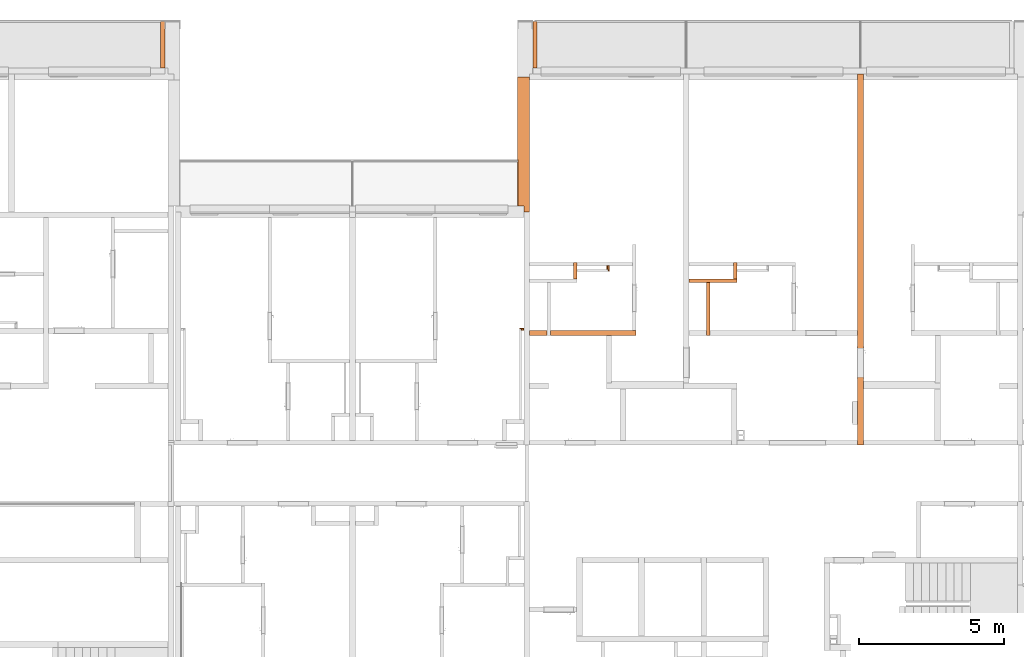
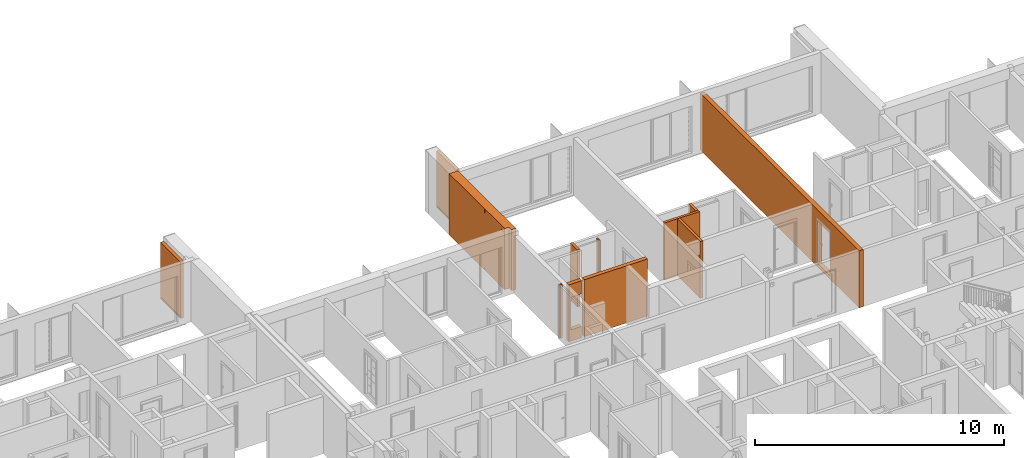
# One storey, part 59 of 64: 11 proxies, 2 openings.
"""IFC2X3 building model written with IfcOpenShell, lengths in millimetres."""

from ifc_helpers import new_model, entity, si_unit, converted_unit, derived_unit, money_unit, direction, frame, origin_with_axes, origin_2d_with_axis, place, context, subcontext, project, spatial, rectangle, extrude, faceted_brep, material, material_list, type_object, element, save


model = new_model("IFC2X3")

# Units and contexts
model_context = context("Model", 3, precision=0.01, world=origin_with_axes(), true_north=direction((0.34421633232, 0.938890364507)))
body_context = subcontext(model_context, "Body", "Model", "MODEL_VIEW")
ifc_project = project(units=[si_unit("LENGTHUNIT", "METRE", prefix="MILLI"), si_unit("AREAUNIT", "SQUARE_METRE"), si_unit("VOLUMEUNIT", "CUBIC_METRE"), converted_unit("PLANEANGLEUNIT", "DEGREE", entity("IfcPlaneAngleMeasure", 0.0174532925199), si_unit("PLANEANGLEUNIT", "RADIAN"), dimensions=[0, 0, 0, 0, 0, 0, 0]), si_unit("SOLIDANGLEUNIT", "STERADIAN"), money_unit("USD"), converted_unit("TIMEUNIT", "Year", entity("IfcTimeMeasure", 31556926.0), si_unit("TIMEUNIT", "SECOND"), dimensions=[0, 0, 1, 0, 0, 0, 0]), si_unit("MASSUNIT", "GRAM", prefix="KILO"), si_unit("THERMODYNAMICTEMPERATUREUNIT", "DEGREE_CELSIUS"), si_unit("LUMINOUSINTENSITYUNIT", "LUMEN"), si_unit("ENERGYUNIT", "JOULE", prefix="MEGA"), derived_unit("THERMALCONDUCTANCEUNIT", [(si_unit("POWERUNIT", "WATT"), 1), (si_unit("LENGTHUNIT", "METRE"), -1), (si_unit("THERMODYNAMICTEMPERATUREUNIT", "KELVIN"), -1)]), derived_unit("SPECIFICHEATCAPACITYUNIT", [(si_unit("ENERGYUNIT", "JOULE"), 1), (si_unit("MASSUNIT", "GRAM", prefix="KILO"), -1), (si_unit("THERMODYNAMICTEMPERATUREUNIT", "KELVIN"), -1)]), derived_unit("MASSDENSITYUNIT", [(si_unit("MASSUNIT", "GRAM", prefix="KILO"), 1), (si_unit("VOLUMEUNIT", "CUBIC_METRE"), -1)])], contexts=[model_context])

# Site, building, storey
site_placement = place(None, origin_with_axes())
site = spatial("IfcSite", under=ifc_project, at=site_placement, Name="USTRONIE MORSKIE", CompositionType="ELEMENT")
building_placement = place(site_placement, origin_with_axes())
building = spatial("IfcBuilding", under=site, at=building_placement, Name="Budynek", CompositionType="ELEMENT")
storey_placement = place(building_placement, frame((0.0, 0.0, 7000.0), z_axis=(0.0, 0.0, 1.0), x_axis=(1.0, 0.0, 0.0)))
storey = spatial("IfcBuildingStorey", under=building, at=storey_placement, Name="PIĘTRO 2", CompositionType="ELEMENT", Elevation=7000.0)

# Proxies
ifc_material_1 = material(Name="Bloczki silikatowe")
building_element_proxy_type_1 = type_object("IfcBuildingElementProxyType", Name="Bloczki silikatowe 120", PredefinedType="NOTDEFINED")
proxy_1_placement = place(storey_placement, frame((384817.920919, 742431.199937, -160.0), z_axis=(0.0, 0.0, 1.0), x_axis=(1.0, 0.0, 0.0)))
element("IfcBuildingElementProxy", 1, at=proxy_1_placement, inside=storey, type_object=building_element_proxy_type_1, material=ifc_material_1, Name="SW-04", context=body_context, shape_type="Brep", body=[
    faceted_brep([(1740.0, 59.9999999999, 0.0), (1740.0, -59.9999999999, 0.0), (100.0, -59.9999999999, 0.0), (100.0, 59.9999999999, 0.0), (1740.0, 59.9999999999, 2800.0), (1740.0, -59.9999999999, 2800.0), (100.0, -59.9999999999, 2800.0), (100.0, 59.9999999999, 2800.0)], [[[0, 1, 2, 3]], [[1, 0, 4, 5]], [[1, 5, 6, 2]], [[7, 3, 2, 6]], [[4, 0, 3, 7]], [[5, 4, 7, 6]]]),
])
proxy_2_placement = place(storey_placement, frame((386497.920919, 743001.199021, -160.0), z_axis=(0.0, 0.0, 1.0), x_axis=(0.0, -1.0, 0.0)))
element("IfcBuildingElementProxy", 2, at=proxy_2_placement, inside=storey, type_object=building_element_proxy_type_1, material=ifc_material_1, Name="SW-04", context=body_context, shape_type="Brep", body=[
    faceted_brep([(509.999084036, 60.0, 0.0), (509.999084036, -60.0, 0.0), (-59.9999999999, -60.0, 0.0), (-59.9999999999, 60.0, 0.0), (509.999084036, 60.0, 2800.0), (509.999084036, -60.0, 2800.0), (-59.9999999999, -60.0, 2800.0), (-59.9999999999, 60.0, 2800.0)], [[[0, 1, 2, 3]], [[1, 0, 4, 5]], [[1, 5, 6, 2]], [[7, 3, 2, 6]], [[4, 0, 3, 7]], [[5, 4, 7, 6]]]),
])
proxy_3_placement = place(storey_placement, frame((385577.924326, 742431.199937, -160.0), z_axis=(0.0, 0.0, 1.0), x_axis=(0.0, -1.0, 0.0)))
element("IfcBuildingElementProxy", 3, at=proxy_3_placement, inside=storey, type_object=building_element_proxy_type_1, material=ifc_material_1, Name="SW-04", context=body_context, shape_type="Brep", body=[
    faceted_brep([(1890.00090117, 60.0, 0.0), (1890.00090117, -60.0, 0.0), (59.9999999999, -60.0, 0.0), (59.9999999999, 60.0, 0.0), (1890.00090117, 60.0, 2800.0), (1890.00090117, -60.0, 2800.0), (59.9999999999, -60.0, 2800.0), (59.9999999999, 60.0, 2800.0)], [[[0, 1, 2, 3]], [[1, 0, 4, 5]], [[1, 5, 6, 2]], [[7, 3, 2, 6]], [[4, 0, 3, 7]], [[5, 4, 7, 6]]]),
])
proxy_4_placement = place(storey_placement, frame((380997.920919, 743001.199021, -160.0), z_axis=(0.0, 0.0, 1.0), x_axis=(0.0, -1.0, 0.0)))
element("IfcBuildingElementProxy", 4, at=proxy_4_placement, inside=storey, type_object=building_element_proxy_type_1, material=ifc_material_1, Name="SW-04", context=body_context, shape_type="Brep", body=[
    faceted_brep([(509.999084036, 60.0, 0.0), (509.999084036, -60.0, 0.0), (-59.9999999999, -60.0, 0.0), (-59.9999999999, 60.0, 0.0), (509.999084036, 60.0, 2800.0), (509.999084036, -60.0, 2800.0), (-59.9999999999, -60.0, 2800.0), (-59.9999999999, 60.0, 2800.0)], [[[0, 1, 2, 3]], [[1, 0, 4, 5]], [[1, 5, 6, 2]], [[7, 3, 2, 6]], [[4, 0, 3, 7]], [[5, 4, 7, 6]]]),
])
ifc_material_2 = material(Name="Tynk zewnętrzny")
ifc_material_3 = material(Name="Wełna ELEW")
ifc_material_4 = material(Name="Beton konstrukcyjny B25")
ifc_material_list_1 = material_list([ifc_material_2, ifc_material_3, ifc_material_4])
building_element_proxy_type_2 = type_object("IfcBuildingElementProxyType", Name="20+20 410", PredefinedType="NOTDEFINED")
proxy_5_placement = place(storey_placement, frame((379317.920919, 744701.213046, -160.0), z_axis=(0.0, 0.0, 1.0), x_axis=(0.0, 1.0, 0.0)))
element("IfcBuildingElementProxy", 5, at=proxy_5_placement, inside=storey, type_object=building_element_proxy_type_2, material=ifc_material_list_1, Name="SZ-01", context=body_context, shape_type="Brep", body=[
    faceted_brep([(1899.98108936, 310.0, 3000.0), (1899.98108936, 300.0, 3000.0), (4749.98599028, 300.0, 3000.0), (4749.98599028, 310.0, 3000.0), (1899.98108936, 300.0, 2800.0), (1899.98108936, 310.0, 2800.0), (309.986276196, 300.0, 2800.0), (309.986276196, 300.0, 110.0), (1899.98108936, 300.0, 110.0), (1899.98108936, 300.0, 0.0), (4749.98599028, 300.0, 0.0), (4749.98599028, 310.0, 0.0), (1899.98108936, 310.0, 0.0), (1899.98108936, 310.0, 110.0), (309.986276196, 310.0, 110.0), (309.986276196, 310.0, 2800.0)], [[[0, 1, 2, 3]], [[4, 1, 0, 5]], [[4, 6, 7, 8, 9, 10, 2, 1]], [[10, 11, 3, 2]], [[5, 0, 3, 11, 12, 13, 14, 15]], [[6, 4, 5, 15]], [[6, 15, 14, 7]], [[8, 7, 14, 13]], [[8, 13, 12, 9]], [[9, 12, 11, 10]]]),
    faceted_brep([(299.986276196, 300.0, 3000.0), (299.986276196, 300.0, 0.0), (299.986276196, 100.0, 0.0), (299.986276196, 100.0, 3000.0), (4749.98599028, 300.0, 0.0), (4749.98599028, 300.0, 3000.0), (4749.98599028, 100.0, 0.0), (4749.98599028, 100.0, 3000.0)], [[[0, 1, 2, 3]], [[4, 1, 0, 5]], [[6, 2, 1, 4]], [[3, 2, 6, 7]], [[5, 0, 3, 7]], [[6, 4, 5, 7]]]),
    faceted_brep([(100.000114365, -100.0, 2800.0), (100.000114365, -100.0, 0.0), (4749.98599028, -100.0, 0.0), (4749.98599028, -100.0, 3000.0), (99.9862761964, -100.0, 3000.0), (99.9862761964, -100.0, 2800.0), (99.999885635, 100.0, 2800.0), (99.999885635, 100.0, 0.0), (4749.98599028, 100.0, 0.0), (4749.98599028, 100.0, 3000.0), (99.9862761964, 100.0, 3000.0), (99.9862761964, 100.0, 2800.0)], [[[0, 1, 2, 3, 4, 5]], [[1, 0, 6, 7]], [[1, 7, 8, 2]], [[8, 9, 3, 2]], [[10, 4, 3, 9]], [[11, 5, 4, 10]], [[0, 5, 11, 6]], [[6, 11, 10, 9, 8, 7]]]),
])

# Proxy, opening
building_element_proxy_type_3 = type_object("IfcBuildingElementProxyType", Name="Bloczki silikatowe 180", PredefinedType="NOTDEFINED")
proxy_6_placement = place(storey_placement, frame((379317.92443, 740631.199036, -160.0), z_axis=(0.0, 0.0, 1.0), x_axis=(1.0, 0.0, 0.0)))
proxy_6 = element("IfcBuildingElementProxy", 6, at=proxy_6_placement, inside=storey, type_object=building_element_proxy_type_3, material=ifc_material_1, Name="SW-02", context=body_context, shape_type="Brep", body=[
    faceted_brep([(819.9998961, 90.0, 0.0), (819.9998961, 90.0, 2800.0), (3759.9964887, 90.0, 2800.0), (3759.9964887, 90.0, 0.0), (819.9998961, -90.0, 0.0), (819.9998961, -90.0, 2800.0), (3759.9964887, -90.0, 2800.0), (3759.9964887, -90.0, 0.0)], [[[0, 1, 2, 3]], [[4, 5, 1, 0]], [[5, 6, 2, 1]], [[3, 2, 6, 7]], [[3, 7, 4, 0]], [[7, 6, 5, 4]]]),
    faceted_brep([(99.9964886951, 90.0, 0.0), (99.9964886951, 90.0, 2800.0), (699.997987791, 90.0, 2800.0), (699.9998961, 90.0, 0.0), (99.9964886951, -90.0, 0.0), (99.9964886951, -90.0, 2800.0), (699.997987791, -90.0, 2800.0), (699.9998961, -90.0, 0.0)], [[[0, 1, 2, 3]], [[4, 5, 1, 0]], [[6, 2, 1, 5]], [[6, 7, 3, 2]], [[4, 0, 3, 7]], [[7, 6, 5, 4]]]),
])
opening_1_placement = place(proxy_6_placement, frame((449.9998961, 0.0, 560.0), z_axis=(0.0, 0.0, 1.0), x_axis=(1.0, 0.0, 0.0)))
element("IfcOpeningElement", 7, at=opening_1_placement, cuts=proxy_6, Name="R.01", context=body_context, shape_type="SweptSolid", body=[
    extrude(rectangle(XDim=500.001816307, YDim=1600.0, at=origin_2d_with_axis()), frame((0.0, -90.0, 800.0), z_axis=(0.0, 1.0, 0.0), x_axis=(1.0, 0.0, 0.0)), (0.0, 0.0, -1.0), 180.0),
    extrude(rectangle(XDim=500.001816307, YDim=1600.0, at=origin_2d_with_axis()), frame((0.0, -90.0, 800.0), z_axis=(0.0, -1.0, 0.0), x_axis=(1.0, 0.0, 0.0)), (0.0, 0.0, -1.0), 180.0),
])

# Proxies
ifc_material_5 = material(Name="-Pustka powietrzna")
ifc_material_6 = material(Name="Płyta GK")
ifc_material_list_2 = material_list([ifc_material_5, ifc_material_6, ifc_material_6])
building_element_proxy_type_4 = type_object("IfcBuildingElementProxyType", Name="330-SD GK 2-warstwy 75", PredefinedType="NOTDEFINED")
proxy_7_placement = place(storey_placement, frame((379317.920919, 740771.202288, -180.0), z_axis=(0.0, 0.0, 1.0), x_axis=(-1.0, 0.0, 0.0)))
element("IfcBuildingElementProxy", 8, at=proxy_7_placement, inside=storey, type_object=building_element_proxy_type_4, material=ifc_material_list_2, Name="Ściana-009", context=body_context, shape_type="Brep", body=[
    faceted_brep([(100.0, 50.0, 180.0), (100.0, 0.0, 180.0), (100.0, 0.0, 2820.0), (100.0, 50.0, 2820.0), (179.977879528, 0.0, 180.0), (179.977879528, 50.0, 180.0), (179.977879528, 0.0, 2820.0), (179.977879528, 50.0, 2820.0)], [[[0, 1, 2, 3]], [[4, 1, 0, 5]], [[1, 4, 6, 2]], [[7, 3, 2, 6]], [[5, 0, 3, 7]], [[4, 5, 7, 6]]]),
    faceted_brep([(100.0, 0.0, 165.0), (100.0, -12.5, 165.0), (100.0, -12.5, 2820.0), (100.0, 0.0, 2820.0), (229.977879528, -12.5, 165.0), (229.977879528, 0.0, 165.0), (229.977879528, -12.5, 2820.0), (229.977879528, 0.0, 2820.0)], [[[0, 1, 2, 3]], [[4, 1, 0, 5]], [[1, 4, 6, 2]], [[7, 3, 2, 6]], [[5, 0, 3, 7]], [[4, 5, 7, 6]]]),
    faceted_brep([(100.0, -12.5, 165.0), (100.0, -25.0, 165.0), (100.0, -25.0, 2820.0), (100.0, -12.5, 2820.0), (242.477879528, -25.0, 165.0), (242.477879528, -12.5, 165.0), (242.477879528, -25.0, 2820.0), (242.477879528, -12.5, 2820.0)], [[[0, 1, 2, 3]], [[4, 1, 0, 5]], [[1, 4, 6, 2]], [[7, 3, 2, 6]], [[5, 0, 3, 7]], [[4, 5, 7, 6]]]),
])
proxy_8_placement = place(storey_placement, frame((382132.920919, 742771.199021, -160.0), z_axis=(0.0, 0.0, 1.0), x_axis=(0.0, 1.0, 0.0)))
element("IfcBuildingElementProxy", 9, at=proxy_8_placement, inside=storey, type_object=building_element_proxy_type_4, material=ifc_material_list_2, Name="Ściana-009", context=body_context, shape_type="Brep", body=[
    faceted_brep([(50.0, 0.0, 160.0), (170.0, 0.0, 160.0), (170.0, 0.0, 2710.0), (50.0, 0.0, 2710.0), (170.0, 50.0, 160.0), (50.0, 50.0, 160.0), (170.0, 50.0, 2710.0), (50.0, 50.0, 2710.0)], [[[0, 1, 2, 3]], [[4, 1, 0, 5]], [[1, 4, 6, 2]], [[2, 6, 7, 3]], [[5, 0, 3, 7]], [[4, 5, 7, 6]]]),
    faceted_brep([(0.0, -12.5, 145.0), (170.0, -12.5, 145.0), (170.0, -12.5, 2710.0), (0.0, -12.5, 2710.0), (170.0, 0.0, 145.0), (0.0, 0.0, 145.0), (170.0, 0.0, 2710.0), (0.0, 0.0, 2710.0)], [[[0, 1, 2, 3]], [[4, 1, 0, 5]], [[1, 4, 6, 2]], [[2, 6, 7, 3]], [[5, 0, 3, 7]], [[4, 5, 7, 6]]]),
    faceted_brep([(-12.5, -25.0, 145.0), (170.0, -25.0, 145.0), (170.0, -25.0, 2710.0), (-12.5, -25.0, 2710.0), (170.0, -12.5, 145.0), (-12.5, -12.5, 145.0), (170.0, -12.5, 2710.0), (-12.5, -12.5, 2710.0)], [[[0, 1, 2, 3]], [[4, 1, 0, 5]], [[1, 4, 6, 2]], [[2, 6, 7, 3]], [[5, 0, 3, 7]], [[4, 5, 7, 6]]]),
])

# Proxy, opening
building_element_proxy_type_5 = type_object("IfcBuildingElementProxyType", Name="Beton konstrukcyjny B25 200", PredefinedType="NOTDEFINED")
proxy_9_placement = place(storey_placement, frame((390817.920919, 749451.199036, -160.0), z_axis=(0.0, 0.0, 1.0), x_axis=(0.0, -1.0, 0.0)))
proxy_9 = element("IfcBuildingElementProxy", 10, at=proxy_9_placement, inside=storey, type_object=building_element_proxy_type_5, material=ifc_material_4, Name="SW-01", context=body_context, shape_type="Brep", body=[
    faceted_brep([(-100.0, -100.0, 2800.0), (12680.0, -100.0, 2800.0), (12680.0, 100.0, 2800.0), (-100.0, 100.0, 2800.0), (-100.0, -100.0, 0.0), (12680.0, -100.0, 0.0), (12680.0, 100.0, 0.0), (-100.0, 100.0, 0.0)], [[[0, 1, 2, 3]], [[4, 5, 1, 0]], [[6, 2, 1, 5]], [[3, 2, 6, 7]], [[7, 4, 0, 3]], [[7, 6, 5, 4]]]),
])
opening_2_placement = place(proxy_9_placement, frame((9840.0, 0.0, 160.0), z_axis=(0.0, 0.0, 1.0), x_axis=(1.0, 0.0, 0.0)))
element("IfcOpeningElement", 11, at=opening_2_placement, cuts=proxy_9, Name="Dw.1", context=body_context, shape_type="SweptSolid", body=[
    extrude(rectangle(XDim=1020.0, YDim=2120.0, at=origin_2d_with_axis()), frame((0.0, -200.0, 1060.0), z_axis=(0.0, 1.0, 0.0), x_axis=(1.0, 0.0, 0.0)), (0.0, 0.0, 1.0), 600.0),
    extrude(rectangle(XDim=1094.0, YDim=2227.0, at=origin_2d_with_axis()), frame((0.0, -100.0, 1113.5), z_axis=(0.0, 1.0, 0.0), x_axis=(1.0, 0.0, 0.0)), (0.0, 0.0, -1.0), 200.0),
    extrude(rectangle(XDim=1094.0, YDim=2227.0, at=origin_2d_with_axis()), frame((0.0, 100.0, 1113.5), z_axis=(0.0, -1.0, 0.0), x_axis=(1.0, 0.0, 0.0)), (0.0, 0.0, -1.0), 200.0),
])

# Proxies
ifc_material_7 = material(Name="Laminat")
building_element_proxy_type_6 = type_object("IfcBuildingElementProxyType", Name="Laminat 150", PredefinedType="NOTDEFINED")
proxy_10_placement = place(storey_placement, frame((366782.78799, 749761.196429, -160.0), z_axis=(0.0, 0.0, 1.0), x_axis=(-9.14543762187e-06, 0.999999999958, 0.0)))
element("IfcBuildingElementProxy", 12, at=proxy_10_placement, inside=storey, type_object=building_element_proxy_type_6, material=ifc_material_7, Name="SW-03", context=body_context, shape_type="Brep", body=[
    faceted_brep([(1590.00260578, 75.0, 2789.99999183), (1589.99971409, 75.0, 9.99999623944), (0.0, 75.0, 9.99999623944), (0.0, 75.0, 2789.99999183), (1547.49980813, 75.0, 14.9999951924), (1572.49971536, 75.0, 14.9999951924), (1572.49971536, 75.0, 109.999995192), (4.99980812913, 75.0, 109.999995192), (4.99980812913, 75.0, 84.9999951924), (1547.49980813, 75.0, 84.9999951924), (1590.00260578, -75.0, 2789.99999183), (1589.99971409, -74.9999999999, 9.99999623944), (0.0, -74.9999999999, 9.99999623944), (0.0, -75.0, 2789.99999183), (1547.49980813, -74.9999999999, 14.9999951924), (1572.49971536, -74.9999999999, 14.9999951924), (1572.49971536, -74.9999999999, 109.999995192), (4.99980812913, -75.0, 109.999995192), (4.99980812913, -75.0, 84.9999951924), (1547.49980813, -74.9999999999, 84.9999951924)], [[[0, 1, 2, 3], [4, 5, 6, 7, 8, 9]], [[10, 11, 1, 0]], [[1, 11, 12, 2]], [[3, 2, 12, 13]], [[0, 3, 13, 10]], [[4, 14, 15, 5]], [[5, 15, 16, 6]], [[6, 16, 17, 7]], [[7, 17, 18, 8]], [[8, 18, 19, 9]], [[9, 19, 14, 4]], [[13, 12, 11, 10], [14, 19, 18, 17, 16, 15]]]),
])
proxy_11_placement = place(storey_placement, frame((379602.787991, 749761.04617, -160.0), z_axis=(0.0, 0.0, 1.0), x_axis=(-9.14543760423e-06, 0.999999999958, 0.0)))
element("IfcBuildingElementProxy", 13, at=proxy_11_placement, inside=storey, type_object=building_element_proxy_type_6, material=ifc_material_7, Name="SW-03", context=body_context, shape_type="Brep", body=[
    faceted_brep([(1589.99972369, 75.0, 10.0000009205), (0.0, 75.0, 9.99999742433), (-0.000681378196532, 75.0, 2789.99999183), (1589.99981809, 74.9999999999, 2789.99999183), (1572.49971536, 75.0, 14.9999951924), (1572.49971536, 75.0, 109.999995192), (4.99980812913, 75.0, 109.999995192), (4.99980812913, 75.0, 84.9999951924), (1547.49980813, 75.0, 84.9999951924), (1547.49980813, 75.0, 14.9999951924), (0.0, -75.0, 9.99999740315), (1589.99981809, -75.0, 10.0000009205), (0.0, -75.0, 2789.99999183), (1589.99981809, -75.0, 2789.99999183), (1572.49971536, -75.0, 109.999995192), (1572.49971536, -75.0, 14.9999951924), (4.99980812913, -75.0, 109.999995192), (4.99980812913, -75.0, 84.9999951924), (1547.49980813, -75.0, 84.9999951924), (1547.49980813, -75.0, 14.9999951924)], [[[0, 1, 2, 3], [4, 5, 6, 7, 8, 9]], [[10, 1, 0, 11]], [[12, 2, 1, 10]], [[13, 3, 2, 12]], [[11, 0, 3, 13]], [[14, 5, 4, 15]], [[16, 6, 5, 14]], [[17, 7, 6, 16]], [[18, 8, 7, 17]], [[19, 9, 8, 18]], [[15, 4, 9, 19]], [[10, 11, 13, 12], [15, 19, 18, 17, 16, 14]]]),
])

save(model, "model.ifc")
